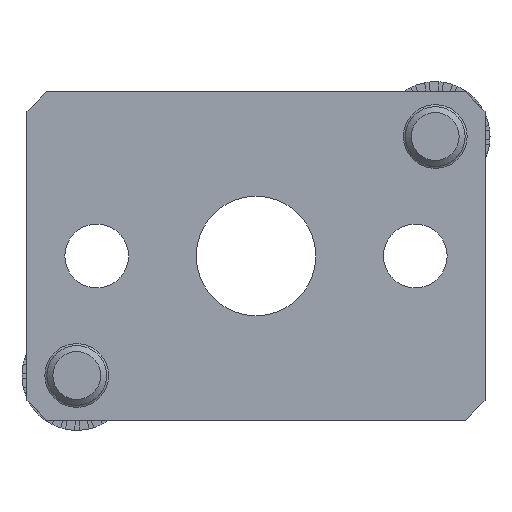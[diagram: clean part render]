
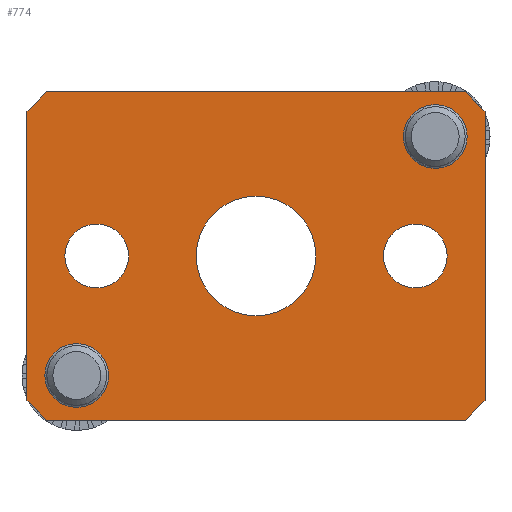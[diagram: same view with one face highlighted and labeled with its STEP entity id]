
A CAD part, front view. The second image highlights one B-rep face of the part: STEP entity #774.
In plain terms, the highlighted planar face has unit normal (0, -1, 0).
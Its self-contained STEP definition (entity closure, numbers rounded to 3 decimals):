
#774=ADVANCED_FACE('',(#1503,#1504,#1505,#1506,#1507,#1508),#1509,.F.);
#1503=FACE_BOUND('',#2225,.T.);
#1504=FACE_BOUND('',#2226,.T.);
#1505=FACE_BOUND('',#2227,.T.);
#1506=FACE_BOUND('',#2228,.T.);
#1507=FACE_BOUND('',#2229,.T.);
#1508=FACE_OUTER_BOUND('',#2230,.T.);
#1509=PLANE('',#2231);
#2225=EDGE_LOOP('',(#4450));
#2226=EDGE_LOOP('',(#4451));
#2227=EDGE_LOOP('',(#4452));
#2228=EDGE_LOOP('',(#4453));
#2229=EDGE_LOOP('',(#4454));
#2230=EDGE_LOOP('',(#4455,#4456,#4457,#4458,#4459,#4460,#4461,#4462));
#2231=AXIS2_PLACEMENT_3D('',#4463,#4464,#4465);
#4450=ORIENTED_EDGE('',*,*,#5419,.F.);
#4451=ORIENTED_EDGE('',*,*,#5420,.F.);
#4452=ORIENTED_EDGE('',*,*,#5421,.F.);
#4453=ORIENTED_EDGE('',*,*,#5422,.F.);
#4454=ORIENTED_EDGE('',*,*,#5423,.T.);
#4455=ORIENTED_EDGE('',*,*,#5414,.F.);
#4456=ORIENTED_EDGE('',*,*,#5402,.T.);
#4457=ORIENTED_EDGE('',*,*,#5409,.F.);
#4458=ORIENTED_EDGE('',*,*,#5424,.T.);
#4459=ORIENTED_EDGE('',*,*,#5406,.F.);
#4460=ORIENTED_EDGE('',*,*,#5397,.T.);
#4461=ORIENTED_EDGE('',*,*,#5417,.F.);
#4462=ORIENTED_EDGE('',*,*,#5392,.T.);
#4463=CARTESIAN_POINT('',(-11.5,0.0,8.25));
#4464=DIRECTION('',(0.0,1.0,0.0));
#4465=DIRECTION('',(0.0,0.0,1.0));
#5392=EDGE_CURVE('',#6741,#6739,#6742,.F.);
#5397=EDGE_CURVE('',#6750,#6748,#6751,.F.);
#5402=EDGE_CURVE('',#6759,#6757,#6760,.F.);
#5406=EDGE_CURVE('',#6750,#6765,#6766,.T.);
#5409=EDGE_CURVE('',#6769,#6757,#6770,.T.);
#5414=EDGE_CURVE('',#6759,#6739,#6776,.T.);
#5417=EDGE_CURVE('',#6741,#6748,#6779,.T.);
#5419=EDGE_CURVE('',#6781,#6781,#6782,.T.);
#5420=EDGE_CURVE('',#6783,#6783,#6784,.T.);
#5421=EDGE_CURVE('',#6785,#6785,#6786,.T.);
#5422=EDGE_CURVE('',#6787,#6787,#6788,.T.);
#5423=EDGE_CURVE('',#6789,#6789,#6790,.T.);
#5424=EDGE_CURVE('',#6769,#6765,#6791,.F.);
#6739=VERTEX_POINT('',#8556);
#6741=VERTEX_POINT('',#8559);
#6742=LINE('',#8560,#8561);
#6748=VERTEX_POINT('',#8569);
#6750=VERTEX_POINT('',#8572);
#6751=LINE('',#8573,#8574);
#6757=VERTEX_POINT('',#8582);
#6759=VERTEX_POINT('',#8585);
#6760=LINE('',#8586,#8587);
#6765=VERTEX_POINT('',#8594);
#6766=LINE('',#8595,#8596);
#6769=VERTEX_POINT('',#8600);
#6770=LINE('',#8601,#8602);
#6776=LINE('',#8611,#8612);
#6779=LINE('',#8616,#8617);
#6781=VERTEX_POINT('',#8619);
#6782=CIRCLE('',#8620,1.6);
#6783=VERTEX_POINT('',#8621);
#6784=CIRCLE('',#8622,1.6);
#6785=VERTEX_POINT('',#8623);
#6786=CIRCLE('',#8624,1.6);
#6787=VERTEX_POINT('',#8625);
#6788=CIRCLE('',#8626,1.6);
#6789=VERTEX_POINT('',#8627);
#6790=CIRCLE('',#8628,3.0);
#6791=LINE('',#8629,#8630);
#8556=CARTESIAN_POINT('',(11.5,0.0,-7.25));
#8559=CARTESIAN_POINT('',(10.5,0.0,-8.25));
#8560=CARTESIAN_POINT('',(10.5,0.0,-8.25));
#8561=VECTOR('',#9699,1.0);
#8569=CARTESIAN_POINT('',(-10.5,0.0,-8.25));
#8572=CARTESIAN_POINT('',(-11.5,0.0,-7.25));
#8573=CARTESIAN_POINT('',(-11.5,0.0,-7.25));
#8574=VECTOR('',#9703,1.0);
#8582=CARTESIAN_POINT('',(10.5,0.0,8.25));
#8585=CARTESIAN_POINT('',(11.5,0.0,7.25));
#8586=CARTESIAN_POINT('',(11.5,0.0,7.25));
#8587=VECTOR('',#9707,1.0);
#8594=CARTESIAN_POINT('',(-11.5,0.0,7.25));
#8595=CARTESIAN_POINT('',(-11.5,0.0,-8.25));
#8596=VECTOR('',#9710,1.0);
#8600=CARTESIAN_POINT('',(-10.5,0.0,8.25));
#8601=CARTESIAN_POINT('',(-11.5,0.0,8.25));
#8602=VECTOR('',#9712,1.0);
#8611=CARTESIAN_POINT('',(11.5,0.0,8.25));
#8612=VECTOR('',#9716,1.0);
#8616=CARTESIAN_POINT('',(11.5,0.0,-8.25));
#8617=VECTOR('',#9718,1.0);
#8619=CARTESIAN_POINT('',(-6.4,0.0,0.0));
#8620=AXIS2_PLACEMENT_3D('',#9719,#9720,#9721);
#8621=CARTESIAN_POINT('',(9.6,0.0,0.0));
#8622=AXIS2_PLACEMENT_3D('',#9722,#9723,#9724);
#8623=CARTESIAN_POINT('',(10.6,0.0,6.0));
#8624=AXIS2_PLACEMENT_3D('',#9725,#9726,#9727);
#8625=CARTESIAN_POINT('',(-7.4,0.0,-6.0));
#8626=AXIS2_PLACEMENT_3D('',#9728,#9729,#9730);
#8627=CARTESIAN_POINT('',(0.,0.0,3.0));
#8628=AXIS2_PLACEMENT_3D('',#9731,#9732,#9733);
#8629=CARTESIAN_POINT('',(-10.5,0.0,8.25));
#8630=VECTOR('',#9734,1.0);
#9699=DIRECTION('',(-0.707,0.0,-0.707));
#9703=DIRECTION('',(-0.707,0.0,0.707));
#9707=DIRECTION('',(0.707,0.0,-0.707));
#9710=DIRECTION('',(0.0,0.0,1.0));
#9712=DIRECTION('',(1.0,0.0,0.0));
#9716=DIRECTION('',(0.,0.0,-1.0));
#9718=DIRECTION('',(-1.0,0.0,0.));
#9719=CARTESIAN_POINT('',(-8.0,0.0,0.0));
#9720=DIRECTION('',(0.0,-1.0,0.0));
#9721=DIRECTION('',(1.0,0.0,0.0));
#9722=CARTESIAN_POINT('',(8.0,0.0,0.0));
#9723=DIRECTION('',(0.0,-1.0,0.0));
#9724=DIRECTION('',(1.0,0.0,0.0));
#9725=CARTESIAN_POINT('',(9.0,0.0,6.0));
#9726=DIRECTION('',(0.0,-1.0,0.0));
#9727=DIRECTION('',(1.0,0.0,0.0));
#9728=CARTESIAN_POINT('',(-9.0,0.0,-6.0));
#9729=DIRECTION('',(0.0,-1.0,0.0));
#9730=DIRECTION('',(1.0,0.0,0.0));
#9731=CARTESIAN_POINT('',(0.,0.0,0.));
#9732=DIRECTION('',(0.0,1.0,0.0));
#9733=DIRECTION('',(0.0,0.0,1.0));
#9734=DIRECTION('',(0.707,0.0,0.707));
